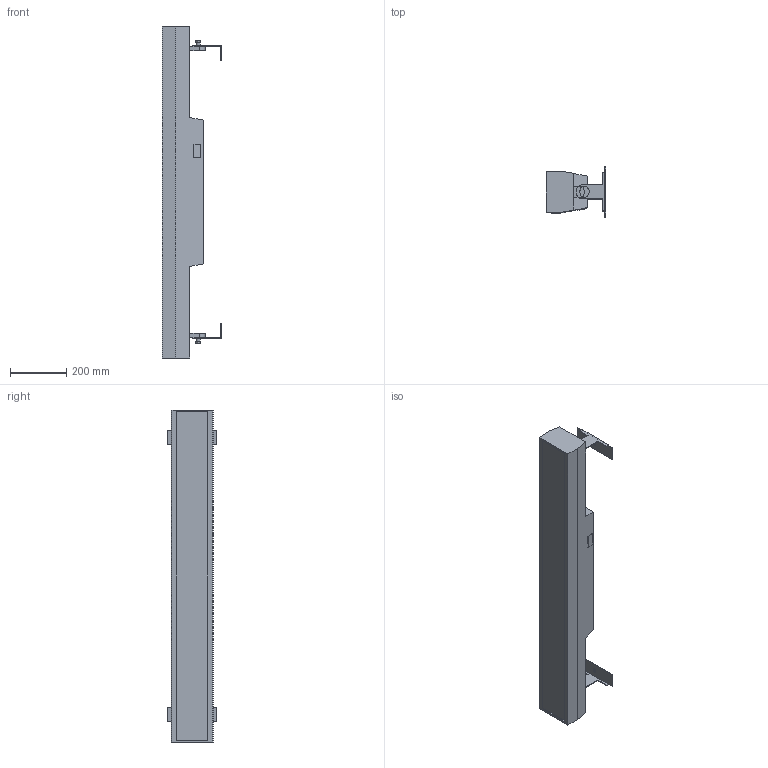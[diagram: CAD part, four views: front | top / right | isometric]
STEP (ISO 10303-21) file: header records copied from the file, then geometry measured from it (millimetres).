
FILE_DESCRIPTION(/* description */ (''),/* implementation_level */ '2;1');
FILE_NAME(/* name */ 'COLORado Solo Bar 4_0_3D.stp',/* time_stamp */ '2024-04-30T10:43:35-04:00',/* author */ ('dgooch'),/* organization */ (''),/* preprocessor_version */ 'ST-DEVELOPER v20',/* originating_system */ 'Autodesk Inventor 2024',/* authorisation */ '');
FILE_SCHEMA (('AUTOMOTIVE_DESIGN { 1 0 10303 214 3 1 1 }'));
Length unit declared in the file: millimetre
Products named in the file (4): COLORado Solo Bar 4_0; Bracket_1; Bracket 2; Main
Assembly tree (3 placements, depth 2):
  COLORado Solo Bar 4_0
    Bracket_1
    Bracket 2
    Main
Bounding box: 212.39 x 178 x 1184.1 mm (x, y, z)
Volume: 19308784.4 mm3; surface area: 733133.4 mm2
Topology: 3 solids, 3 shells, 98 faces, 236 edges, 156 vertices
Faces by surface type: plane 76, cylinder 14, cone 4, bspline 4
Full cylindrical faces by diameter (mm): 13 x2, 14 x6
Entity records: 6010 total; most frequent: CARTESIAN_POINT 3539, ORIENTED_EDGE 472, DIRECTION 458, EDGE_CURVE 236, LINE 184, VECTOR 184, VERTEX_POINT 156, AXIS2_PLACEMENT_3D 137
